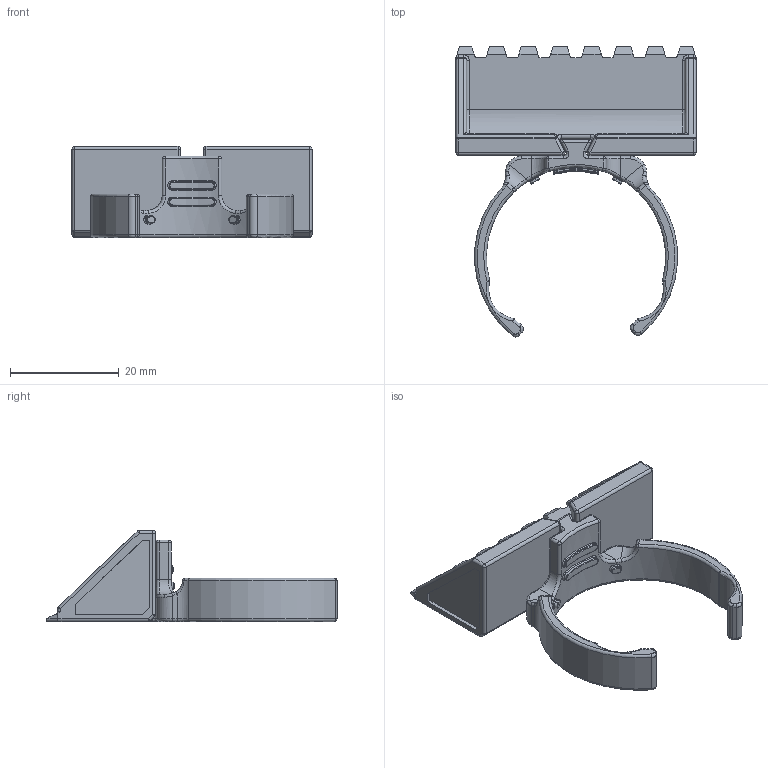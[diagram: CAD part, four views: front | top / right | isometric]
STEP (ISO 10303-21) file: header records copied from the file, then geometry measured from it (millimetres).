
FILE_DESCRIPTION(/* description */ (''),/* implementation_level */ '2;1');
FILE_NAME(/* name */ '/Users/jmac/Desktop/CAD Refresh/Evo Dozer/Evo Dozer.step',/* time_stamp */ '2022-09-21T15:42:17-06:00',/* author */ (''),/* organization */ (''),/* preprocessor_version */ 'ST-DEVELOPER v19',/* originating_system */ 'Autodesk Translation Framework v11.7.0.108',/* authorisation */ '');
FILE_SCHEMA (('AUTOMOTIVE_DESIGN { 1 0 10303 214 3 1 1 }'));
Length unit declared in the file: millimetre
Products named in the file (3): Evo Dozer_CAD Library; Dozer Bucket; Front Clip
Assembly tree (2 placements, depth 2):
  Evo Dozer_CAD Library
    Dozer Bucket
    Front Clip
Bounding box: 44.2 x 53.41 x 16.79 mm (x, y, z)
Volume: 5222.5 mm3; surface area: 5784.1 mm2
Topology: 2 solids, 2 shells, 385 faces, 867 edges, 486 vertices
Faces by surface type: cylinder 122, plane 119, bspline 52, torus 52, sphere 40
Entity records: 12454 total; most frequent: CARTESIAN_POINT 3894, DIRECTION 1855, ORIENTED_EDGE 1722, EDGE_CURVE 861, AXIS2_PLACEMENT_3D 722, VERTEX_POINT 486, LINE 411, VECTOR 411
